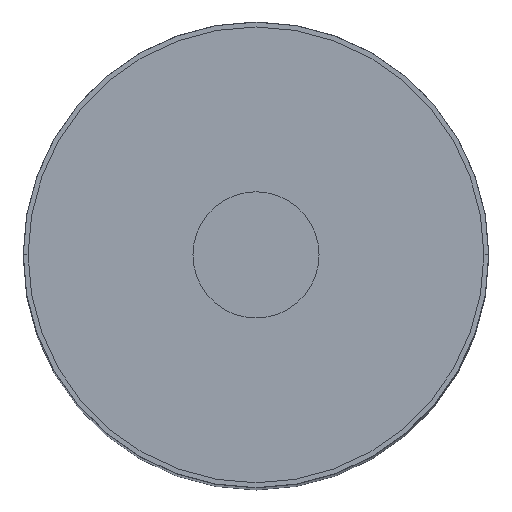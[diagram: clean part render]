
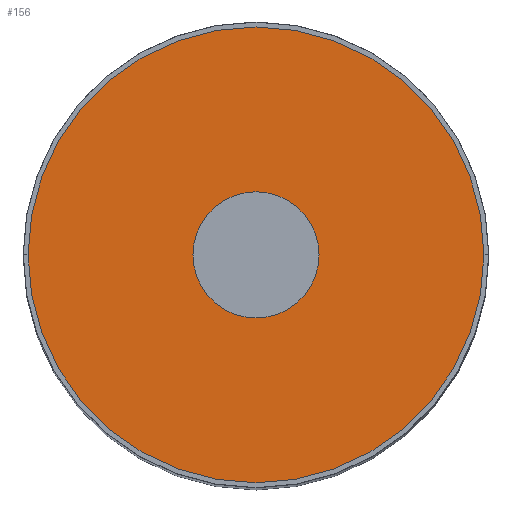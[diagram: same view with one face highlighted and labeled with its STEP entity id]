
A CAD part, top view. The second image highlights one B-rep face of the part: STEP entity #156.
In plain terms, the highlighted planar face has unit normal (0, 0, 1).
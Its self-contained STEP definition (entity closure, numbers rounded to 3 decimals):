
#68 = ORIENTED_EDGE ( 'NONE', *, *, #504, .T. ) ;
#73 = CIRCLE ( 'NONE', #316, 6.5 ) ;
#98 = ORIENTED_EDGE ( 'NONE', *, *, #440, .F. ) ;
#156 = ADVANCED_FACE ( 'NONE', ( #272, #256 ), #796, .F. ) ;
#168 = EDGE_LOOP ( 'NONE', ( #68, #257 ) ) ;
#172 = DIRECTION ( 'NONE',  ( 0., 0., -1. ) ) ;
#222 = CARTESIAN_POINT ( 'NONE',  ( 0., 6.5, 140.075 ) ) ;
#256 = FACE_BOUND ( 'NONE', #168, .T. ) ;
#257 = ORIENTED_EDGE ( 'NONE', *, *, #470, .T. ) ;
#266 = AXIS2_PLACEMENT_3D ( 'NONE', #222, #172, #468 ) ;
#270 = VERTEX_POINT ( 'NONE', #618 ) ;
#272 = FACE_OUTER_BOUND ( 'NONE', #483, .T. ) ;
#277 = DIRECTION ( 'NONE',  ( -1., 0., 0. ) ) ;
#279 = DIRECTION ( 'NONE',  ( 0., 0., -1. ) ) ;
#283 = CARTESIAN_POINT ( 'NONE',  ( 0., 0., 140.075 ) ) ;
#316 = AXIS2_PLACEMENT_3D ( 'NONE', #398, #641, #395 ) ;
#395 = DIRECTION ( 'NONE',  ( -1., 0., 0. ) ) ;
#396 = CARTESIAN_POINT ( 'NONE',  ( 6.5, 0., 140.075 ) ) ;
#398 = CARTESIAN_POINT ( 'NONE',  ( 0., 0., 140.075 ) ) ;
#408 = VERTEX_POINT ( 'NONE', #576 ) ;
#437 = CIRCLE ( 'NONE', #634, 6.5 ) ;
#440 = EDGE_CURVE ( 'NONE', #408, #270, #598, .T. ) ;
#448 = EDGE_CURVE ( 'NONE', #270, #408, #488, .T. ) ;
#450 = DIRECTION ( 'NONE',  ( -1., 0., 0. ) ) ;
#451 = VERTEX_POINT ( 'NONE', #475 ) ;
#455 = CARTESIAN_POINT ( 'NONE',  ( 0., 0., 140.075 ) ) ;
#468 = DIRECTION ( 'NONE',  ( -1., 0., 0. ) ) ;
#470 = EDGE_CURVE ( 'NONE', #580, #451, #73, .T. ) ;
#475 = CARTESIAN_POINT ( 'NONE',  ( -6.5, 0., 140.075 ) ) ;
#479 = DIRECTION ( 'NONE',  ( -1., 0., 0. ) ) ;
#483 = EDGE_LOOP ( 'NONE', ( #487, #98 ) ) ;
#484 = DIRECTION ( 'NONE',  ( 0., 0., -1. ) ) ;
#485 = CARTESIAN_POINT ( 'NONE',  ( 0., 0., 140.075 ) ) ;
#487 = ORIENTED_EDGE ( 'NONE', *, *, #448, .F. ) ;
#488 = CIRCLE ( 'NONE', #633, 23.488 ) ;
#504 = EDGE_CURVE ( 'NONE', #451, #580, #437, .T. ) ;
#576 = CARTESIAN_POINT ( 'NONE',  ( 23.488, 0., 140.075 ) ) ;
#580 = VERTEX_POINT ( 'NONE', #396 ) ;
#598 = CIRCLE ( 'NONE', #787, 23.488 ) ;
#618 = CARTESIAN_POINT ( 'NONE',  ( -23.488, 0., 140.075 ) ) ;
#633 = AXIS2_PLACEMENT_3D ( 'NONE', #455, #697, #450 ) ;
#634 = AXIS2_PLACEMENT_3D ( 'NONE', #283, #279, #277 ) ;
#641 = DIRECTION ( 'NONE',  ( 0., 0., -1. ) ) ;
#697 = DIRECTION ( 'NONE',  ( 0., 0., -1. ) ) ;
#787 = AXIS2_PLACEMENT_3D ( 'NONE', #485, #484, #479 ) ;
#796 = PLANE ( 'NONE',  #266 ) ;
